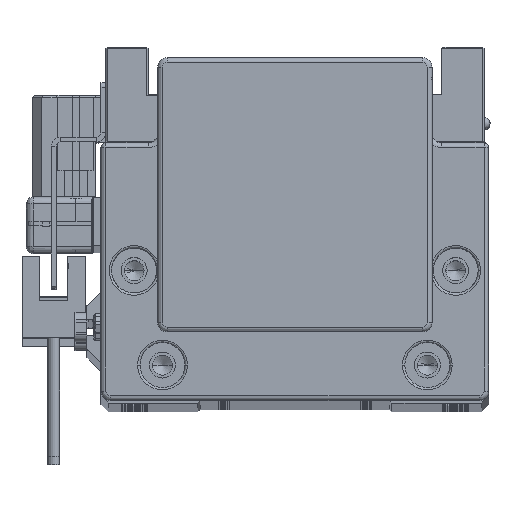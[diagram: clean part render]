
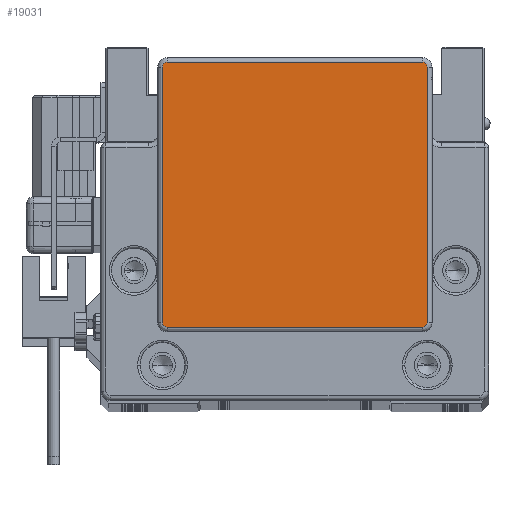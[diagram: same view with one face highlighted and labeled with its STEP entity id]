
A CAD part, top view. The second image highlights one B-rep face of the part: STEP entity #19031.
In plain terms, the highlighted planar face has unit normal (0, 0, 1).
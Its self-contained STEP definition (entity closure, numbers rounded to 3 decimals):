
#239 = VERTEX_POINT ( 'NONE', #27322 ) ;
#684 = CARTESIAN_POINT ( 'NONE',  ( 28., 34.25, 17. ) ) ;
#778 = ORIENTED_EDGE ( 'NONE', *, *, #55059, .T. ) ;
#971 = EDGE_LOOP ( 'NONE', ( #29228, #19344, #43372, #11314, #42390, #49833, #28726, #778 ) ) ;
#2285 = CARTESIAN_POINT ( 'NONE',  ( 27., -20.75, 17. ) ) ;
#4077 = DIRECTION ( 'NONE',  ( 1., 0., 0. ) ) ;
#4461 = EDGE_CURVE ( 'NONE', #41624, #7040, #44607, .T. ) ;
#5185 = DIRECTION ( 'NONE',  ( -1., 0., 0. ) ) ;
#6627 = DIRECTION ( 'NONE',  ( 1., 0., 0. ) ) ;
#6758 = CARTESIAN_POINT ( 'NONE',  ( 28., 34.25, 17. ) ) ;
#6968 = VERTEX_POINT ( 'NONE', #28859 ) ;
#6982 = VECTOR ( 'NONE', #6627, 1000. ) ;
#7040 = VERTEX_POINT ( 'NONE', #6758 ) ;
#8150 = FACE_OUTER_BOUND ( 'NONE', #971, .T. ) ;
#8368 = VERTEX_POINT ( 'NONE', #12797 ) ;
#8778 = VECTOR ( 'NONE', #5185, 1000. ) ;
#9460 = CARTESIAN_POINT ( 'NONE',  ( -27., -19.75, 17. ) ) ;
#11314 = ORIENTED_EDGE ( 'NONE', *, *, #38528, .T. ) ;
#12797 = CARTESIAN_POINT ( 'NONE',  ( -27., -20.75, 17. ) ) ;
#13091 = PLANE ( 'NONE',  #36264 ) ;
#14502 = AXIS2_PLACEMENT_3D ( 'NONE', #22084, #17714, #53254 ) ;
#15444 = VECTOR ( 'NONE', #34379, 1000. ) ;
#16075 = LINE ( 'NONE', #51894, #15444 ) ;
#16648 = DIRECTION ( 'NONE',  ( 0., 0., 1. ) ) ;
#17714 = DIRECTION ( 'NONE',  ( 0., 0., 1. ) ) ;
#17746 = CIRCLE ( 'NONE', #47509, 1. ) ;
#17808 = CARTESIAN_POINT ( 'NONE',  ( 27., -19.75, 17. ) ) ;
#17931 = DIRECTION ( 'NONE',  ( 0., 0., 1. ) ) ;
#19020 = DIRECTION ( 'NONE',  ( 0., 1., 0. ) ) ;
#19031 = ADVANCED_FACE ( 'NONE', ( #8150 ), #13091, .T. ) ;
#19344 = ORIENTED_EDGE ( 'NONE', *, *, #36039, .T. ) ;
#21719 = CARTESIAN_POINT ( 'NONE',  ( 27., -20.75, 17. ) ) ;
#22084 = CARTESIAN_POINT ( 'NONE',  ( -27., 34.25, 17. ) ) ;
#23614 = EDGE_CURVE ( 'NONE', #37407, #41624, #17746, .T. ) ;
#23764 = CARTESIAN_POINT ( 'NONE',  ( 27., 35.25, 17. ) ) ;
#24963 = VECTOR ( 'NONE', #19020, 1000. ) ;
#26161 = CARTESIAN_POINT ( 'NONE',  ( 27., 34.25, 17. ) ) ;
#26761 = CARTESIAN_POINT ( 'NONE',  ( -27., -19.75, 17. ) ) ;
#27322 = CARTESIAN_POINT ( 'NONE',  ( -27., 35.25, 17. ) ) ;
#27854 = LINE ( 'NONE', #2285, #6982 ) ;
#28726 = ORIENTED_EDGE ( 'NONE', *, *, #4461, .T. ) ;
#28859 = CARTESIAN_POINT ( 'NONE',  ( -28., -19.75, 17. ) ) ;
#29228 = ORIENTED_EDGE ( 'NONE', *, *, #33383, .T. ) ;
#30050 = CIRCLE ( 'NONE', #34696, 1. ) ;
#33383 = EDGE_CURVE ( 'NONE', #41755, #239, #35140, .T. ) ;
#33663 = EDGE_CURVE ( 'NONE', #8368, #37407, #27854, .T. ) ;
#34379 = DIRECTION ( 'NONE',  ( 0., -1., 0. ) ) ;
#34383 = EDGE_CURVE ( 'NONE', #36315, #6968, #16075, .T. ) ;
#34696 = AXIS2_PLACEMENT_3D ( 'NONE', #26161, #43913, #4077 ) ;
#35140 = LINE ( 'NONE', #53231, #8778 ) ;
#36039 = EDGE_CURVE ( 'NONE', #239, #36315, #47964, .T. ) ;
#36264 = AXIS2_PLACEMENT_3D ( 'NONE', #26761, #57107, #43662 ) ;
#36315 = VERTEX_POINT ( 'NONE', #53669 ) ;
#37407 = VERTEX_POINT ( 'NONE', #21719 ) ;
#38528 = EDGE_CURVE ( 'NONE', #6968, #8368, #39493, .T. ) ;
#39493 = CIRCLE ( 'NONE', #53475, 1. ) ;
#40042 = CARTESIAN_POINT ( 'NONE',  ( 28., -19.75, 17. ) ) ;
#41624 = VERTEX_POINT ( 'NONE', #40042 ) ;
#41755 = VERTEX_POINT ( 'NONE', #23764 ) ;
#42390 = ORIENTED_EDGE ( 'NONE', *, *, #33663, .T. ) ;
#43372 = ORIENTED_EDGE ( 'NONE', *, *, #34383, .T. ) ;
#43662 = DIRECTION ( 'NONE',  ( 1., 0., 0. ) ) ;
#43913 = DIRECTION ( 'NONE',  ( 0., 0., 1. ) ) ;
#44118 = DIRECTION ( 'NONE',  ( 1., 0., 0. ) ) ;
#44607 = LINE ( 'NONE', #684, #24963 ) ;
#47509 = AXIS2_PLACEMENT_3D ( 'NONE', #17808, #16648, #52767 ) ;
#47964 = CIRCLE ( 'NONE', #14502, 1. ) ;
#49833 = ORIENTED_EDGE ( 'NONE', *, *, #23614, .T. ) ;
#51894 = CARTESIAN_POINT ( 'NONE',  ( -28., -19.75, 17. ) ) ;
#52767 = DIRECTION ( 'NONE',  ( 1., 0., 0. ) ) ;
#53231 = CARTESIAN_POINT ( 'NONE',  ( -27., 35.25, 17. ) ) ;
#53254 = DIRECTION ( 'NONE',  ( 1., 0., 0. ) ) ;
#53475 = AXIS2_PLACEMENT_3D ( 'NONE', #9460, #17931, #44118 ) ;
#53669 = CARTESIAN_POINT ( 'NONE',  ( -28., 34.25, 17. ) ) ;
#55059 = EDGE_CURVE ( 'NONE', #7040, #41755, #30050, .T. ) ;
#57107 = DIRECTION ( 'NONE',  ( 0., 0., 1. ) ) ;
